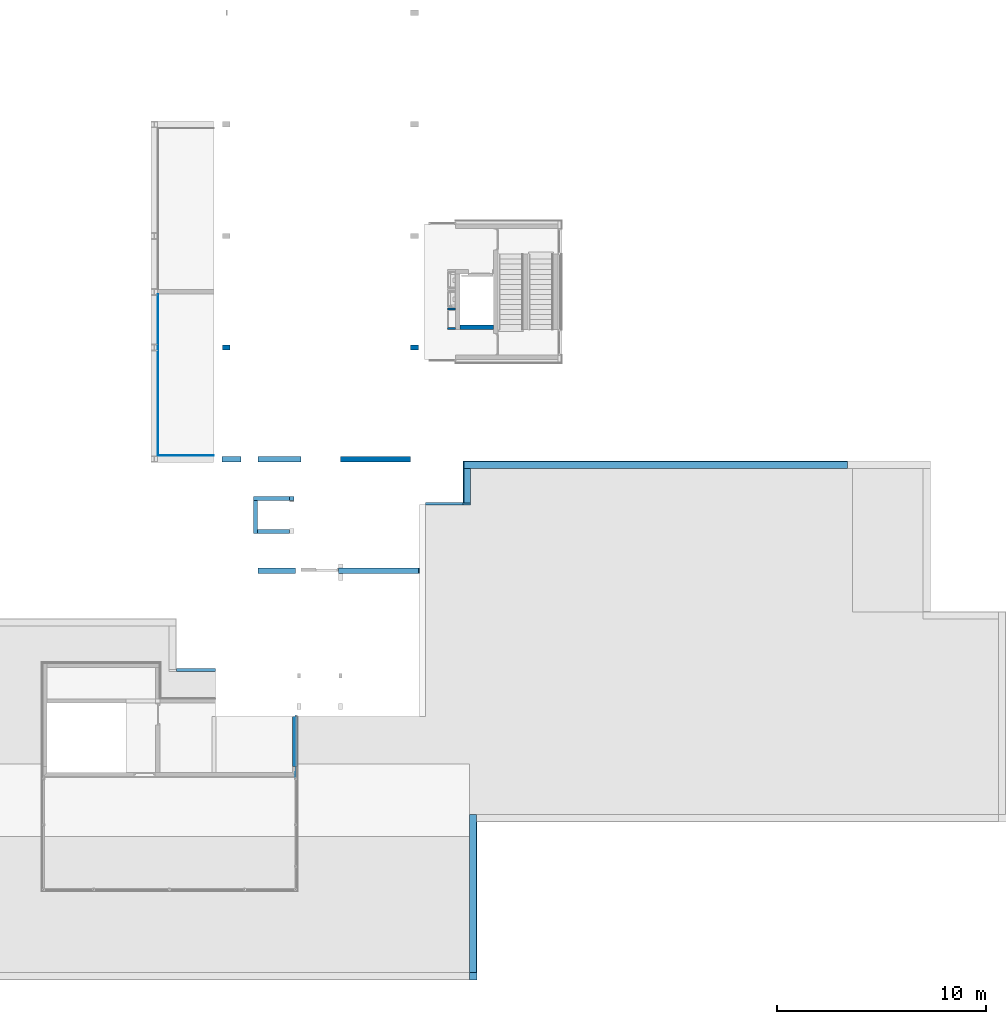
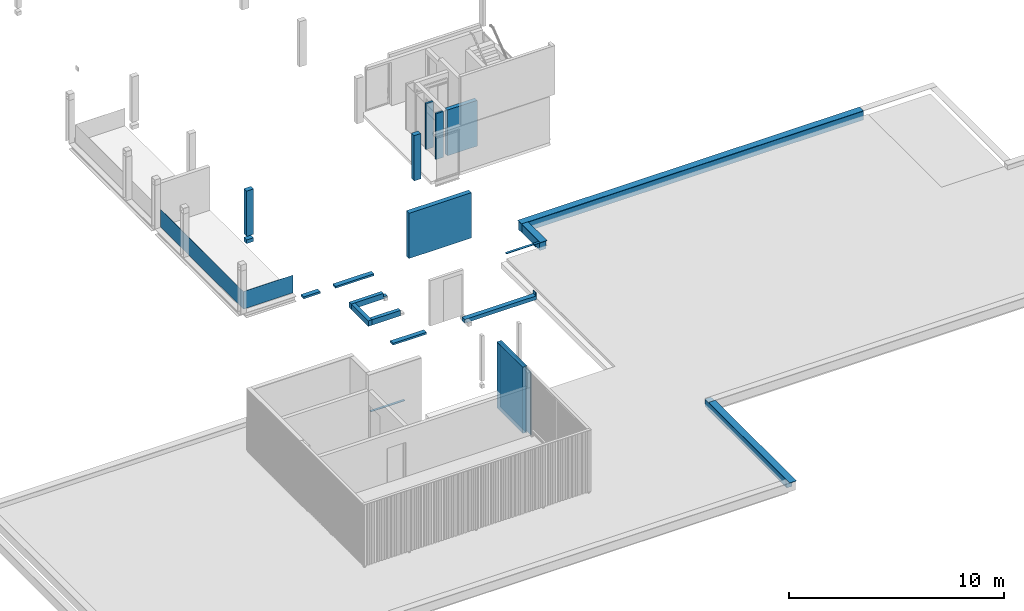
# One storey, part 5 of 22: 26 walls.
"""IFC2X3 building model written with IfcOpenShell, lengths in millimetres."""

from ifc_helpers import new_model, entity, si_unit, converted_unit, derived_unit, money_unit, direction, frame, origin_with_axes, place, context, subcontext, project, spatial, faceted_brep, material, type_object, element, save


model = new_model("IFC2X3")

# Units and contexts
model_context = context("Model", 3, precision=0.01, world=origin_with_axes(), true_north=direction((0.0, 1.0)))
body_context = subcontext(model_context, "Body", "Model", "MODEL_VIEW")
ifc_project = project(units=[si_unit("LENGTHUNIT", "METRE", prefix="MILLI"), si_unit("AREAUNIT", "SQUARE_METRE"), si_unit("VOLUMEUNIT", "CUBIC_METRE"), converted_unit("PLANEANGLEUNIT", "DEGREE", entity("IfcPlaneAngleMeasure", 0.0174532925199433), si_unit("PLANEANGLEUNIT", "RADIAN"), dimensions=[0, 0, 0, 0, 0, 0, 0]), money_unit("EUR"), converted_unit("TIMEUNIT", "Year", entity("IfcTimeMeasure", 31557600.0), si_unit("TIMEUNIT", "SECOND"), dimensions=[0, 0, 1, 0, 0, 0, 0]), si_unit("MASSUNIT", "GRAM", prefix="KILO"), si_unit("THERMODYNAMICTEMPERATUREUNIT", "DEGREE_CELSIUS"), si_unit("LUMINOUSINTENSITYUNIT", "LUMEN"), si_unit("ENERGYUNIT", "JOULE", prefix="MEGA"), derived_unit("THERMALCONDUCTANCEUNIT", [(si_unit("POWERUNIT", "WATT"), 1), (si_unit("LENGTHUNIT", "METRE"), -1), (si_unit("THERMODYNAMICTEMPERATUREUNIT", "KELVIN"), -1)]), derived_unit("SPECIFICHEATCAPACITYUNIT", [(si_unit("ENERGYUNIT", "JOULE"), 1), (si_unit("MASSUNIT", "GRAM", prefix="KILO"), -1), (si_unit("THERMODYNAMICTEMPERATUREUNIT", "KELVIN"), -1)]), derived_unit("MASSDENSITYUNIT", [(si_unit("MASSUNIT", "GRAM", prefix="KILO"), 1), (si_unit("VOLUMEUNIT", "CUBIC_METRE"), -1)])], contexts=[model_context])

# Site, building, storey
site_placement = place(None, origin_with_axes())
site = spatial("IfcSite", under=ifc_project, at=site_placement, Name="Site", CompositionType="ELEMENT")
building_placement = place(site_placement, origin_with_axes())
building = spatial("IfcBuilding", under=site, at=building_placement, Name="Naam gebouw", CompositionType="ELEMENT")
storey_placement = place(building_placement, frame((0.0, 0.0, 11150.0), z_axis=(0.0, 0.0, 1.0), x_axis=(1.0, 0.0, 0.0)))
storey = spatial("IfcBuildingStorey", under=building, at=storey_placement, Name="3e verdieping/dak N", CompositionType="ELEMENT", Elevation=11150.0)

# Walls
ifc_material_1 = material(Name="ALG - CONSTRUCTIEF")
wall_type_1 = type_object("IfcWallType", Name="ALG - CONSTRUCTIEF 200", PredefinedType="NOTDEFINED")
wall_1_placement = place(storey_placement, frame((22125.0, 26080.91242510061, 0.0), z_axis=(0.0, 0.0, 1.0), x_axis=(0.0, -1.0, 0.0)))
element("IfcWall", 1, at=wall_1_placement, inside=storey, type_object=wall_type_1, material=ifc_material_1, Name="_Wand-x", context=body_context, shape_type="Brep", body=[
    faceted_brep([(100.0000000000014, -100.0000000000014, 210.0000000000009), (100.000000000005, -100.0000000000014, 310.0000000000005), (100.000000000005, 100.0000000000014, 310.0000000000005), (100.000000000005, 100.0000000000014, 0.0), (100.000000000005, -100.0000000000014, 0.0), (1684.999974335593, -100.0000000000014, 0.0), (1684.999974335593, -100.0000000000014, 310.0000000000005), (1684.999974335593, 100.0000000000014, 310.0000000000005), (1684.999974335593, 100.0000000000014, 0.0)], [[[0, 1, 2, 3, 4]], [[5, 6, 1, 0, 4]], [[6, 7, 2, 1]], [[3, 2, 7, 8]], [[5, 4, 3, 8]], [[8, 7, 6, 5]]]),
])
wall_2_placement = place(storey_placement, frame((22125.0, 26080.91242510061, 0.0), z_axis=(0.0, 0.0, 1.0), x_axis=(1.0, 0.0, 0.0)))
element("IfcWall", 2, at=wall_2_placement, inside=storey, type_object=wall_type_1, material=ifc_material_1, Name="_Wand-x", context=body_context, shape_type="Brep", body=[
    faceted_brep([(-100.0000000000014, 100.0000000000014, 310.0000000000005), (1624.999999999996, 100.0000000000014, 310.0000000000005), (1624.999999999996, 100.0000000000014, 110.0000000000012), (1830.444270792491, 100.0000000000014, 110.0000000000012), (1830.444270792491, 100.0000000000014, 0.0), (-100.0000000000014, 100.0000000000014, 0.0), (-100.0000000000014, 100.0000000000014, 210.0000000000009), (-100.0000000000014, -100.0000000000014, 310.0000000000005), (1624.999999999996, -100.0000000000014, 310.0000000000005), (1624.999999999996, -100.0000000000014, 110.0000000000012), (1830.444270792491, -100.0000000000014, 110.0000000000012), (1830.444270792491, -100.0000000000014, 0.0), (-100.0000000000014, -100.0000000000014, 0.0)], [[[0, 1, 2, 3, 4, 5, 6]], [[7, 8, 1, 0]], [[9, 2, 1, 8]], [[9, 10, 3, 2]], [[4, 3, 10, 11]], [[11, 12, 5, 4]], [[5, 12, 7, 0, 6]], [[10, 9, 8, 7, 12, 11]]]),
])
wall_3_placement = place(storey_placement, frame((22125.0, 24495.91245076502, 0.0), z_axis=(0.0, 0.0, 1.0), x_axis=(1.0, 0.0, 0.0)))
element("IfcWall", 3, at=wall_3_placement, inside=storey, type_object=wall_type_1, material=ifc_material_1, Name="_Wand-x", context=body_context, shape_type="Brep", body=[
    faceted_brep([(100.0000000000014, 100.0000000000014, 310.0000000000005), (1624.999999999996, 100.0000000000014, 310.0000000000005), (1624.999999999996, 100.0000000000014, 110.0000000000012), (1630.444270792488, 100.0000000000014, 110.0000000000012), (1630.444270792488, 100.0000000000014, 0.0), (100.0000000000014, 100.0000000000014, 0.0), (100.0000000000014, -100.0000000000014, 310.0000000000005), (1624.999999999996, -100.0000000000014, 310.0000000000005), (1624.999999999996, -100.0000000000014, 110.0000000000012), (1630.444270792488, -100.0000000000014, 110.0000000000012), (1630.444270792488, -100.0000000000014, 0.0), (100.0000000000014, -100.0000000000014, 0.0), (100.0000000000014, -100.0000000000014, 210.0000000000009)], [[[0, 1, 2, 3, 4, 5]], [[6, 7, 1, 0]], [[8, 2, 1, 7]], [[8, 9, 3, 2]], [[4, 3, 9, 10]], [[11, 5, 4, 10]], [[5, 11, 12, 6, 0]], [[9, 8, 7, 6, 12, 11, 10]]]),
])
wall_type_2 = type_object("IfcWallType", Name="ALG - CONSTRUCTIEF 250", PredefinedType="NOTDEFINED")
wall_4_placement = place(storey_placement, frame((26099.99999999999, 22625.91242510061, -99.99999999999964), z_axis=(0.0, 0.0, 1.0), x_axis=(1.0, 0.0, 0.0)))
element("IfcWall", 4, at=wall_4_placement, inside=storey, type_object=wall_type_2, material=ifc_material_1, Name="_Wand-x", context=body_context, shape_type="Brep", body=[
    faceted_brep([(0.0, 125.0, 0.0), (0.0, 125.0, 210.0000000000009), (3815.454121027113, 125.0, 210.0000000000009), (3815.454121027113, 125.0, 410.0000000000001), (3845.000000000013, 125.0, 410.0000000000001), (3845.000000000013, 125.0, 0.0), (0.0, -125.0, 0.0), (0.0, -125.0, 210.0000000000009), (3815.103968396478, -125.0, 210.0000000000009), (3815.103968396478, -125.0, 410.0000000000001), (3845.000000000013, -125.0, 410.0000000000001), (3845.000000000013, -125.0, 0.0)], [[[0, 1, 2, 3, 4, 5]], [[6, 7, 1, 0]], [[8, 2, 1, 7]], [[8, 9, 3, 2]], [[4, 3, 9, 10]], [[11, 5, 4, 10]], [[11, 6, 0, 5]], [[9, 8, 7, 6, 11, 10]]]),
    faceted_brep([(3845.000000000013, 125.0, 2980.0), (3815.454121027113, 125.0000000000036, 2980.0), (3815.454121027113, 125.0, 3000.0), (3845.000000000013, 125.0, 3000.0), (3845.000000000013, -125.0, 2980.0), (3815.103968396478, -125.0, 2980.0), (3815.103968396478, -125.0, 3000.0), (3845.000000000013, -125.0, 3000.0)], [[[0, 1, 2, 3]], [[4, 5, 1, 0]], [[5, 6, 2, 1]], [[3, 2, 6, 7]], [[3, 7, 4, 0]], [[7, 6, 5, 4]]]),
])
wall_5_placement = place(storey_placement, frame((26190.59090909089, 27955.91242510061, 310.0000000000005), z_axis=(0.0, 0.0, 1.0), x_axis=(1.0, 0.0, 0.0)))
element("IfcWall", 5, at=wall_5_placement, inside=storey, type_object=wall_type_2, material=ifc_material_1, Name="_Wand-x", context=body_context, shape_type="Brep", body=[
    faceted_brep([(0.0, 125.0, 0.0), (0.0, 125.0, 2570.0), (3345.40909090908, 125.0, 2570.0), (3345.40909090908, 125.0, 0.0), (0.0, -125.0, 0.0), (0.0, -125.0, 2570.0), (3345.40909090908, -125.0, 2570.0), (3345.40909090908, -125.0, 0.0)], [[[0, 1, 2, 3]], [[4, 5, 1, 0]], [[5, 6, 2, 1]], [[3, 2, 6, 7]], [[7, 4, 0, 3]], [[7, 6, 5, 4]]]),
])
wall_6_placement = place(storey_placement, frame((22229.99999999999, 22625.91242510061, 0.0), z_axis=(0.0, 0.0, 1.0), x_axis=(1.0, 0.0, 0.0)))
element("IfcWall", 6, at=wall_6_placement, inside=storey, type_object=wall_type_2, material=ifc_material_1, Name="_Wand-x", context=body_context, shape_type="Brep", body=[
    faceted_brep([(1816.000000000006, 125.0, 0.0), (16.00000000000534, 125.0, 0.0), (16.00000000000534, 125.0000000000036, 110.0000000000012), (1520.0, 125.0000000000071, 110.0000000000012), (1816.000000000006, 125.0, 110.0000000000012), (1816.000000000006, -125.0, 0.0), (16.00000000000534, -125.0, 0.0), (16.00000000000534, -125.0, 110.0000000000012), (1816.000000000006, -125.0, 110.0000000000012)], [[[0, 1, 2, 3, 4]], [[5, 6, 1, 0]], [[6, 7, 2, 1]], [[3, 2, 7, 8, 4]], [[5, 0, 4, 8]], [[8, 7, 6, 5]]]),
])
wall_7_placement = place(storey_placement, frame((20536.0, 27955.91242510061, 0.0), z_axis=(0.0, 0.0, 1.0), x_axis=(1.0, 0.0, 0.0)))
element("IfcWall", 7, at=wall_7_placement, inside=storey, type_object=wall_type_2, material=ifc_material_1, Name="_Wand-x", context=body_context, shape_type="Brep", body=[
    faceted_brep([(0.0, -125.0000002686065, 110.0000000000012), (890.0000000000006, -124.9999998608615, 110.0000000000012), (890.0000000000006, 125.0000000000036, 110.0000000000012), (0.0, 125.0000000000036, 110.0000000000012), (0.0, -124.9999999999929, 0.0), (890.0000000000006, -124.9999999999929, 0.0), (890.0000000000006, 125.0000000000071, 0.0), (0.0, 125.0000000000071, 0.0)], [[[0, 1, 2, 3]], [[4, 5, 1, 0]], [[5, 6, 2, 1]], [[3, 2, 6, 7]], [[7, 4, 0, 3]], [[7, 6, 5, 4]]]),
    faceted_brep([(3764.0, 125.0, 0.0), (1710.000000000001, 125.0000000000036, 0.0), (1710.000000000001, 125.0000000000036, 110.0000000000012), (3764.0, 125.0, 110.0000000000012), (3764.0, -125.0, 0.0), (1710.000000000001, -124.9999999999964, 0.0), (1710.000000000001, -124.9999994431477, 110.0000000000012), (3213.999999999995, -124.9999998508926, 110.0000000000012), (3764.0, -125.0, 110.0000000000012)], [[[0, 1, 2, 3]], [[4, 5, 1, 0]], [[5, 6, 2, 1]], [[3, 2, 6, 7, 8]], [[4, 0, 3, 8]], [[7, 6, 5, 4, 8]]]),
])
wall_8_placement = place(storey_placement, frame((20545.0, 33285.91242510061, -99.99999999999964), z_axis=(0.0, 0.0, 1.0), x_axis=(1.0, 0.0, 0.0)))
element("IfcWall", 8, at=wall_8_placement, inside=storey, type_object=wall_type_2, material=ifc_material_1, Name="_Wand-x", context=body_context, shape_type="Brep", body=[
    faceted_brep([(0.0, 125.0, 0.0), (0.0, 125.0, 210.0000000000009), (370.0000000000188, 125.0, 210.0000000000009), (370.0000000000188, 125.0, 0.0), (0.0, -125.0, 0.0), (0.0, -125.0, 210.0000000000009), (370.0000000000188, -125.0, 210.0000000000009), (370.0000000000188, -125.0, 0.0)], [[[0, 1, 2, 3]], [[4, 5, 1, 0]], [[5, 6, 2, 1]], [[3, 2, 6, 7]], [[4, 0, 3, 7]], [[7, 6, 5, 4]]]),
    faceted_brep([(0.0, 125.0, 410.0000000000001), (0.0, 125.0, 2980.0), (370.0000000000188, 125.0, 2980.0), (370.0000000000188, 125.0, 410.0000000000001), (0.0, -125.0, 410.0000000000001), (0.0, -125.0, 2980.0), (370.0000000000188, -125.0, 2980.0), (370.0000000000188, -125.0, 410.0000000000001)], [[[0, 1, 2, 3]], [[4, 5, 1, 0]], [[5, 6, 2, 1]], [[3, 2, 6, 7]], [[4, 0, 3, 7]], [[7, 6, 5, 4]]]),
])
wall_9_placement = place(storey_placement, frame((29535.99999999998, 33285.91242510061, 310.0000000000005), z_axis=(0.0, 0.0, 1.0), x_axis=(1.0, 0.0, 0.0)))
element("IfcWall", 9, at=wall_9_placement, inside=storey, type_object=wall_type_2, material=ifc_material_1, Name="_Wand-x", context=body_context, shape_type="Brep", body=[
    faceted_brep([(370.0000000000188, 125.0, 0.0), (0.0, 125.0, 0.0), (0.0, 125.0, 2570.0), (370.0000000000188, 125.0, 2570.0), (0.0, -125.0, 0.0), (370.0000000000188, -125.0, 0.0), (0.0, -125.0, 2570.0), (370.0000000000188, -125.0, 2570.0)], [[[0, 1, 2, 3]], [[4, 1, 0, 5]], [[1, 4, 6, 2]], [[2, 6, 7, 3]], [[5, 0, 3, 7]], [[4, 5, 7, 6]]]),
])
ifc_material_2 = material(Name="kalkzandsteen")
wall_type_3 = type_object("IfcWallType", Name="Basic Wall:NLRS_28_kalkzandsteen 100mm", PredefinedType="STANDARD")
wall_10_placement = place(storey_placement, frame((31684.00000000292, 34195.9124263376, 310.0000000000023), z_axis=(0.0, 0.0, 1.0), x_axis=(-1.0, 0.0, 0.0)))
element("IfcWall", 10, at=wall_10_placement, inside=storey, type_object=wall_type_3, material=ifc_material_2, Name="Basic Wall:NLRS_28_kalkzandsteen 100mm", context=body_context, shape_type="Brep", body=[
    faceted_brep([(0.0, 49.99999998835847, 0.0), (392.9999999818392, 49.99999998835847, 0.0), (392.9999999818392, -50.00000004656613, 0.0), (0.0, -50.00000004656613, 0.0), (0.0, 49.99999998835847, 2600.000000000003), (392.9999999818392, 49.99999998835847, 2600.000000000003), (392.9999999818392, -50.00000004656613, 2600.000000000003), (0.0, -50.00000004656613, 2600.000000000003)], [[[0, 1, 2, 3]], [[4, 5, 1, 0]], [[2, 1, 5, 6]], [[3, 2, 6, 7]], [[4, 0, 3, 7]], [[7, 6, 5, 4]]]),
])
wall_11_placement = place(storey_placement, frame((31791.00000002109, 35135.91242628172, 310.0000000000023), z_axis=(0.0, 0.0, 1.0), x_axis=(-1.0, 0.0, 0.0)))
element("IfcWall", 11, at=wall_11_placement, inside=storey, type_object=wall_type_3, material=ifc_material_2, Name="Basic Wall:NLRS_28_kalkzandsteen 100mm", context=body_context, shape_type="Brep", body=[
    faceted_brep([(106.999999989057, 50.00000004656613, 0.0), (499.9999999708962, 50.00000004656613, 0.0), (499.9999999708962, -50.00000004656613, 0.0), (106.999999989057, -50.00000004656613, 0.0), (106.999999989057, 50.00000004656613, 2600.000000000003), (499.9999999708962, 50.00000004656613, 2600.000000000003), (499.9999999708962, -50.00000004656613, 2600.000000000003), (106.999999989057, -50.00000004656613, 2600.000000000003)], [[[0, 1, 2, 3]], [[4, 5, 1, 0]], [[2, 1, 5, 6]], [[3, 2, 6, 7]], [[4, 0, 3, 7]], [[7, 6, 5, 4]]]),
])
wall_type_4 = type_object("IfcWallType", Name="Basic Wall:NLRS_28_kalkzandsteen 214mm", PredefinedType="STANDARD")
wall_12_placement = place(storey_placement, frame((33605.00000000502, 34252.91242630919, 310.0000000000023), z_axis=(0.0, 0.0, 1.0), x_axis=(-1.0, 0.0, 0.0)))
element("IfcWall", 12, at=wall_12_placement, inside=storey, type_object=wall_type_4, material=ifc_material_2, Name="Basic Wall:NLRS_28_kalkzandsteen 214mm", context=body_context, shape_type="Brep", body=[
    faceted_brep([(1706.999999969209, 106.9999999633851, 0.0), (1706.999999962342, -107.0000000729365, 0.0), (107.0000000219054, -107.0000000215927, 0.0), (107.0000000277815, 107.0000000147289, 0.0), (1706.999999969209, 106.9999999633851, 2600.000000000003), (1706.999999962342, -107.0000000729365, 2600.000000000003), (107.0000000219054, -107.0000000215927, 2600.000000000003), (107.0000000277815, 107.0000000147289, 2600.000000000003)], [[[0, 1, 2, 3]], [[1, 0, 4, 5]], [[1, 5, 6, 2]], [[7, 3, 2, 6]], [[4, 0, 3, 7]], [[5, 4, 7, 6]]]),
])
ifc_material_3 = material(Name="glas gehard")
wall_type_5 = type_object("IfcWallType", Name="Basic Wall:34_WA_hard glazen balustrade", PredefinedType="STANDARD")
wall_13_placement = place(storey_placement, frame((20141.00000005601, 28135.91242628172, 310.0000000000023), z_axis=(0.0, 0.0, 1.0), x_axis=(-1.0, 0.0, 0.0)))
element("IfcWall", 13, at=wall_13_placement, inside=storey, type_object=wall_type_5, material=ifc_material_3, Name="Basic Wall:34_WA_hard glazen balustrade", context=body_context, shape_type="Brep", body=[
    faceted_brep([(2675.000000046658, -5.000000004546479, 0.0), (1.101341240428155e-10, -5.000000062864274, 0.0), (-1.06581410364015e-10, 5.000000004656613, 0.0), (2675.000000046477, 5.000000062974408, 0.0), (2675.000000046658, -5.000000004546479, 1000.0), (1.101341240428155e-10, -5.000000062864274, 1000.0), (-1.06581410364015e-10, 5.000000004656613, 1000.0), (2675.000000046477, 5.000000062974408, 1000.0)], [[[0, 1, 2, 3]], [[4, 5, 1, 0]], [[2, 1, 5, 6]], [[3, 2, 6, 7]], [[3, 7, 4, 0]], [[7, 6, 5, 4]]]),
])
wall_14_placement = place(storey_placement, frame((17471.0000000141, 28135.91242633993, 310.0000000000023), z_axis=(0.0, 0.0, 1.0), x_axis=(0.0, 1.0, 0.0)))
element("IfcWall", 14, at=wall_14_placement, inside=storey, type_object=wall_type_5, material=ifc_material_3, Name="Basic Wall:34_WA_hard glazen balustrade", context=body_context, shape_type="Brep", body=[
    faceted_brep([(7695.000000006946, 5.000000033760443, 0.0), (7695.000000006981, -4.999999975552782, 0.0), (5.000000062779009, -5.000000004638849, 0.0), (5.000000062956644, 5.000000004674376, 0.0), (7695.000000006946, 5.000000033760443, 1000.0), (7695.000000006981, -4.999999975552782, 1000.0), (5.000000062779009, -5.000000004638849, 1000.0), (5.000000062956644, 5.000000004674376, 1000.0)], [[[0, 1, 2, 3]], [[0, 4, 5, 1]], [[1, 5, 6, 2]], [[3, 2, 6, 7]], [[4, 0, 3, 7]], [[5, 4, 7, 6]]]),
])
wall_type_6 = type_object("IfcWallType", Name="ALG - CONSTRUCTIEF 35", PredefinedType="NOTDEFINED")
wall_15_placement = place(storey_placement, frame((24064.93442704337, 15670.91242510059, 0.0), z_axis=(0.0, 0.0, 1.0), x_axis=(0.0, -1.0, 0.0)))
element("IfcWall", 15, at=wall_15_placement, inside=storey, type_object=wall_type_6, material=ifc_material_1, Name="_Wand-x", context=body_context, shape_type="Brep", body=[
    faceted_brep([(0.0, 0.0, 3740.0), (0.0, 0.0, 0.0), (2379.999999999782, 0.0, 0.0), (2379.999999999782, 0.0, 3740.0), (0.0, 35.00000000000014, 3740.0), (0.0, 35.00000000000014, 0.0), (2380.115523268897, 35.00000000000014, 0.0), (2380.115523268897, 35.00000000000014, 3740.0)], [[[0, 1, 2, 3]], [[4, 5, 1, 0]], [[5, 6, 2, 1]], [[6, 7, 3, 2]], [[7, 4, 0, 3]], [[4, 7, 6, 5]]]),
])
wall_16_placement = place(storey_placement, frame((24040.62722304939, 12794.60803964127, 0.0), z_axis=(0.0, 0.0, 1.0), x_axis=(0.09113683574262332, 0.9958383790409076, 0.0)))
element("IfcWall", 16, at=wall_16_placement, inside=storey, type_object=wall_type_6, material=ifc_material_1, Name="_Wand-x", context=body_context, shape_type="Brep", body=[
    faceted_brep([(366.0851595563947, -24.90861315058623, 151.9999999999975), (498.8286761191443, -13.89761826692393, 151.9999999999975), (498.8304487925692, -13.89823533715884, 0.0), (499.4136007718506, -13.84986658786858, 0.0), (499.4136007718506, -13.84986658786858, 3740.0), (366.0851595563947, -24.90861315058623, 3740.0), (417.3530468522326, 14.46416852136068, 151.9999999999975), (122.0979206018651, -35.00000000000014, 151.9999999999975), (0.0, -34.99999999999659, 151.9999999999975), (0.0, 0.0, 151.9999999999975), (121.3744245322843, 0.0, 151.9999999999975), (363.9159074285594, 10.0315899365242, 151.9999999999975), (417.3530468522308, 14.46416852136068, 0.0), (496.454236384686, 21.02556463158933, 0.0), (499.5289823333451, -13.8393071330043, 0.0), (499.5289823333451, -13.8393071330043, 3740.0), (496.454236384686, 21.02556463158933, 3740.0), (363.9159074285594, 10.0315899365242, 3740.0), (122.0979206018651, -35.00000000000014, 3740.0), (0.0, -34.99999999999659, 3740.0), (0.0, 0.0, 3740.0), (121.3744245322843, 0.0, 3740.0)], [[[0, 1, 2, 3, 4, 5]], [[6, 1, 0, 7, 8, 9, 10, 11]], [[2, 1, 6, 12]], [[3, 2, 12, 13]], [[4, 3, 14, 15]], [[16, 17, 5, 4]], [[18, 7, 0, 5]], [[19, 8, 7, 18]], [[20, 9, 8, 19]], [[21, 10, 9, 20]], [[17, 11, 10, 21]], [[12, 6, 11, 17, 16, 13]], [[14, 3, 13]], [[14, 13, 16, 15]], [[16, 4, 15]], [[17, 21, 18, 5]], [[20, 19, 18, 21]]]),
])
ifc_material_4 = material(Name="ALG - BUITENAFWERKING")
wall_type_7 = type_object("IfcWallType", Name="ALG - BUITENAFWERKING 360", PredefinedType="NOTDEFINED")
wall_17_placement = place(storey_placement, frame((50399.99999999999, 27505.91242510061, 400.0000000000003), z_axis=(0.0, 0.0, 1.0), x_axis=(-1.0, 0.0, 0.0)))
element("IfcWall", 17, at=wall_17_placement, inside=storey, type_object=wall_type_7, material=ifc_material_4, Name="_Wand-x", context=body_context, shape_type="Brep", body=[
    faceted_brep([(18359.99999999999, -359.9999999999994, 25.00000000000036), (18359.99999999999, 0.0, 25.00000000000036), (0.0, 0.0, 25.00000000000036), (0.0, -359.9999999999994, 25.00000000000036), (18359.99999999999, -359.9999999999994, 0.0), (18359.99999999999, 0.0, 0.0), (0.0, 0.0, 0.0), (0.0, -359.9999999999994, 0.0)], [[[0, 1, 2, 3]], [[1, 0, 4, 5]], [[1, 5, 6, 2]], [[7, 3, 2, 6]], [[4, 0, 3, 7]], [[5, 4, 7, 6]]]),
])
wall_18_placement = place(storey_placement, frame((32399.99999999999, 25760.89702607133, 400.0000000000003), z_axis=(0.0, 0.0, 1.0), x_axis=(0.0, 1.0, 0.0)))
element("IfcWall", 18, at=wall_18_placement, inside=storey, type_object=wall_type_7, material=ifc_material_4, Name="_Wand-x", context=body_context, shape_type="Brep", body=[
    faceted_brep([(1745.015399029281, 359.9999999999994, 0.0), (1745.015399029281, 0.0, 0.0), (0.0, 0.0, 0.0), (0.0, 359.9999999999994, 0.0), (1745.015399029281, 359.9999999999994, 25.00000000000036), (1745.015399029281, 0.0, 25.00000000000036), (0.0, 0.0, 25.00000000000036), (0.0, 359.9999999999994, 25.00000000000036)], [[[0, 1, 2, 3]], [[1, 0, 4, 5]], [[1, 5, 6, 2]], [[7, 3, 2, 6]], [[4, 0, 3, 7]], [[5, 4, 7, 6]]]),
])
wall_19_placement = place(storey_placement, frame((32345.4702600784, 3445.911973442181, 400.0000000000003), z_axis=(0.0, 0.0, 1.0), x_axis=(0.0, 1.0, 0.0)))
element("IfcWall", 19, at=wall_19_placement, inside=storey, type_object=wall_type_7, material=ifc_material_4, Name="_Wand-x", context=body_context, shape_type="Brep", body=[
    faceted_brep([(7185.000451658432, -359.9999999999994, 25.00000000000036), (7185.000451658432, 0.0, 25.00000000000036), (-360.0000000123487, 0.0, 25.00000000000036), (-359.9970182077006, -359.9999999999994, 25.00000000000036), (7185.000451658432, -359.9999999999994, 0.0), (7185.000451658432, 0.0, 0.0), (-360.0000000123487, 0.0, 0.0), (-359.9970182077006, -359.9999999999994, 0.0)], [[[0, 1, 2, 3]], [[1, 0, 4, 5]], [[1, 5, 6, 2]], [[7, 3, 2, 6]], [[4, 0, 3, 7]], [[5, 4, 7, 6]]]),
])
ifc_material_5 = material(Name="ALG - ALGEMEEN")
wall_type_8 = type_object("IfcWallType", Name="ALG - ALGEMEEN 330", PredefinedType="NOTDEFINED")
wall_20_placement = place(storey_placement, frame((32399.99999999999, 25760.89702607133, -99.99999999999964), z_axis=(0.0, 0.0, 1.0), x_axis=(0.0, 1.0, 0.0)))
element("IfcWall", 20, at=wall_20_placement, inside=storey, type_object=wall_type_8, material=ifc_material_5, Name="_Wand-x", context=body_context, shape_type="Brep", body=[
    faceted_brep([(100.0000000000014, 329.9999999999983, 0.0), (1745.015399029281, 329.9999999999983, 0.0), (1745.015399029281, 0.0, 0.0), (100.0000000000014, 0.0, 0.0), (100.0000000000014, 329.9999999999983, 500.0), (1745.015399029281, 329.9999999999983, 500.0), (1745.015399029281, 0.0, 500.0), (100.0000000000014, 0.0, 500.0)], [[[0, 1, 2, 3]], [[4, 5, 1, 0]], [[6, 2, 1, 5]], [[3, 2, 6, 7]], [[7, 4, 0, 3]], [[7, 6, 5, 4]]]),
])
wall_21_placement = place(storey_placement, frame((50399.99999999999, 27505.91242510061, -99.99999999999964), z_axis=(0.0, 0.0, 1.0), x_axis=(-1.0, 0.0, 0.0)))
element("IfcWall", 21, at=wall_21_placement, inside=storey, type_object=wall_type_8, material=ifc_material_5, Name="_Wand-x", context=body_context, shape_type="Brep", body=[
    faceted_brep([(0.0, 0.0, 500.0), (0.0, -329.9999999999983, 500.0), (18329.99999999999, -330.0000000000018, 500.0), (18329.99999999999, 0.0, 500.0), (0.0, 0.0, 0.0), (0.0, -329.9999999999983, 0.0), (18329.99999999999, -330.0000000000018, 0.0), (18329.99999999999, 0.0, 0.0)], [[[0, 1, 2, 3]], [[0, 4, 5, 1]], [[1, 5, 6, 2]], [[6, 7, 3, 2]], [[4, 0, 3, 7]], [[5, 4, 7, 6]]]),
])
wall_22_placement = place(storey_placement, frame((32345.4702600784, 3445.658971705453, -99.99999999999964), z_axis=(0.0, 0.0, 1.0), x_axis=(0.0, 1.0, 0.0)))
element("IfcWall", 22, at=wall_22_placement, inside=storey, type_object=wall_type_8, material=ifc_material_5, Name="_Wand-x", context=body_context, shape_type="Brep", body=[
    faceted_brep([(7382.301734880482, -329.9999999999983, 0.0), (7382.301734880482, -54.52973992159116, 0.0), (7382.301734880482, -54.52973992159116, 99.99999999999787), (7382.301734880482, -329.9999999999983, 99.99999999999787), (0.0, -329.9999999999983, 0.0), (0.0, -54.52973992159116, 0.0), (0.0, -54.52973992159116, 99.99999999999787), (0.0, 0.0, 99.99999999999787), (7545.250720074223, 0.0, 99.99999999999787), (7545.250720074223, -329.9999999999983, 99.99999999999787), (7545.250720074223, -329.9999999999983, 500.0), (0.0, -329.9999999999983, 500.0), (0.0, 0.0, 500.0), (7545.250720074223, 0.0, 500.0)], [[[0, 1, 2, 3]], [[4, 5, 1, 0]], [[6, 2, 1, 5]], [[3, 2, 6, 7, 8, 9]], [[4, 0, 3, 9, 10, 11]], [[7, 6, 5, 4, 11, 12]], [[8, 7, 12, 13]], [[10, 9, 8, 13]], [[12, 11, 10, 13]]]),
])
wall_type_9 = type_object("IfcWallType", Name="ALG - BUITENAFWERKING 230", PredefinedType="NOTDEFINED")
wall_23_placement = place(storey_placement, frame((23899.93971507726, 16000.91242510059, 3740.0), z_axis=(0.0, 0.0, 1.0), x_axis=(0.0, -1.0, 0.0)))
element("IfcWall", 23, at=wall_23_placement, inside=storey, type_object=wall_type_9, material=ifc_material_4, Name="_Wand-x", context=body_context, shape_type="Brep", body=[
    faceted_brep([(330.0000000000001, 0.0, 25.00000000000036), (2709.999999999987, 0.0, 25.00000000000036), (2709.999999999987, 230.0000000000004, 25.00000000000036), (330.0000000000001, 230.0000000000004, 25.00000000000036), (330.0000000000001, 0.0, 0.0), (2709.999999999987, 0.0, 0.0), (2709.999999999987, 230.0000000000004, 0.0), (330.0000000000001, 230.0000000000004, 0.0)], [[[0, 1, 2, 3]], [[4, 5, 1, 0]], [[2, 1, 5, 6]], [[3, 2, 6, 7]], [[4, 0, 3, 7]], [[7, 6, 5, 4]]]),
])
wall_type_10 = type_object("IfcWallType", Name="ALG - BUITENAFWERKING 130", PredefinedType="NOTDEFINED")
wall_24_placement = place(storey_placement, frame((30235.99999999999, 25760.89702607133, 400.0000000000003), z_axis=(0.0, 0.0, 1.0), x_axis=(1.0, 0.0, 0.0)))
element("IfcWall", 24, at=wall_24_placement, inside=storey, type_object=wall_type_10, material=ifc_material_4, Name="_Wand-x", context=body_context, shape_type="Brep", body=[
    faceted_brep([(1804.000000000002, 129.999999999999, 0.0), (1804.000000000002, 0.0, 0.0), (0.0, 0.0, 0.0), (0.0, 129.999999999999, 0.0), (1804.000000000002, 129.999999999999, 25.00000000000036), (1804.000000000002, 0.0, 25.00000000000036), (0.0, 0.0, 25.00000000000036), (0.0, 129.999999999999, 25.00000000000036)], [[[0, 1, 2, 3]], [[1, 0, 4, 5]], [[1, 5, 6, 2]], [[7, 3, 2, 6]], [[4, 0, 3, 7]], [[5, 4, 7, 6]]]),
])
wall_25_placement = place(storey_placement, frame((17999.99828681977, 17824.75122651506, 400.0000000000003), z_axis=(0.0, 0.0, 1.0), x_axis=(1.0, 0.0, 0.0)))
element("IfcWall", 25, at=wall_25_placement, inside=storey, type_object=wall_type_10, material=ifc_material_4, Name="_Wand-x", context=body_context, shape_type="Brep", body=[
    faceted_brep([(359.9999999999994, 129.999999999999, 0.0), (2206.001713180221, 129.999999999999, 0.0), (2206.001713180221, 0.0, 0.0), (359.9999999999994, 0.0, 0.0), (359.9999999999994, 129.999999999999, 25.00000000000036), (2206.001713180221, 129.999999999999, 25.00000000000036), (2206.001713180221, 0.0, 25.00000000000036), (359.9999999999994, 0.0, 25.00000000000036)], [[[0, 1, 2, 3]], [[4, 5, 1, 0]], [[2, 1, 5, 6]], [[3, 2, 6, 7]], [[4, 0, 3, 7]], [[7, 6, 5, 4]]]),
])
wall_type_11 = type_object("IfcWallType", Name="ALG - CONSTRUCTIEF 165", PredefinedType="NOTDEFINED")
wall_26_placement = place(storey_placement, frame((23899.93971507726, 16000.91242510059, 0.0), z_axis=(0.0, 0.0, 1.0), x_axis=(0.0, -1.0, 0.0)))
element("IfcWall", 26, at=wall_26_placement, inside=storey, type_object=wall_type_11, material=ifc_material_1, Name="_Wand-x", context=body_context, shape_type="Brep", body=[
    faceted_brep([(2710.655930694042, 164.9999999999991, 0.0), (330.0000000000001, 164.9999999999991, 0.0), (330.0000000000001, 164.9999999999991, 3740.0), (2710.655930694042, 164.9999999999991, 3740.0), (2709.999999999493, 0.0, 0.0), (330.0000000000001, 0.0, 0.0), (330.0000000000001, 0.0, 3740.0), (2709.999999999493, 0.0, 3740.0)], [[[0, 1, 2, 3]], [[0, 4, 5, 1]], [[2, 1, 5, 6]], [[7, 3, 2, 6]], [[3, 7, 4, 0]], [[7, 6, 5, 4]]]),
])

save(model, "model.ifc")
